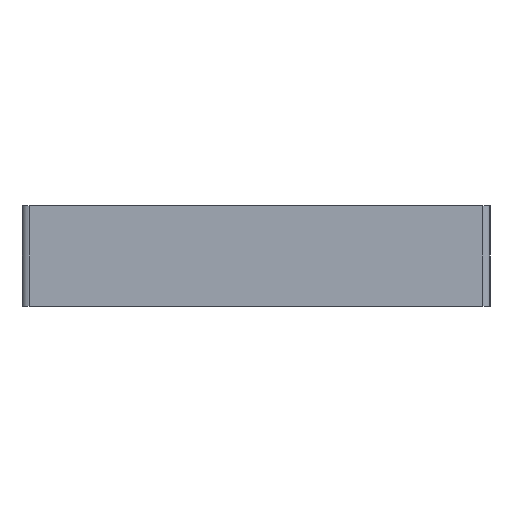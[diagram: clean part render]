
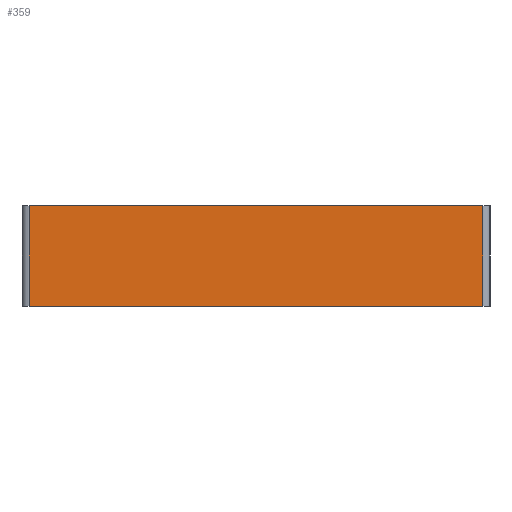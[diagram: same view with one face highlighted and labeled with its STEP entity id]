
A CAD part, left-side view. The second image highlights one B-rep face of the part: STEP entity #359.
In plain terms, the highlighted planar face has unit normal (-1, 0, 0).
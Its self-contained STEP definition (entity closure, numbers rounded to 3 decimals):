
#359=ADVANCED_FACE('',(#1378),#1380,.T.);
#1378=FACE_BOUND('',#1379,.T.);
#1379=EDGE_LOOP('',(#2344,#2345,#2346,#2347));
#1380=PLANE('',#1381);
#1381=AXIS2_PLACEMENT_3D('',#1382,#1383,#1384);
#1382=CARTESIAN_POINT('',(-530.,31.5,0.));
#1383=DIRECTION('',(-1.,0.,0.));
#1384=DIRECTION('',(0.,-1.,0.));
#2344=ORIENTED_EDGE('',*,*,#2719,.T.);
#2345=ORIENTED_EDGE('',*,*,#2706,.T.);
#2346=ORIENTED_EDGE('',*,*,#2634,.F.);
#2347=ORIENTED_EDGE('',*,*,#2718,.F.);
#2634=EDGE_CURVE('',#2874,#2861,#2876,.T.);
#2706=EDGE_CURVE('',#2991,#2861,#2995,.T.);
#2718=EDGE_CURVE('',#3011,#2874,#3013,.T.);
#2719=EDGE_CURVE('',#3011,#2991,#3014,.T.);
#2861=VERTEX_POINT('',#3289);
#2874=VERTEX_POINT('',#3317);
#2876=LINE('',#3322,#3323);
#2991=VERTEX_POINT('',#3606);
#2995=LINE('',#3615,#3616);
#3011=VERTEX_POINT('',#3655);
#3013=LINE('',#3660,#3661);
#3014=LINE('',#3663,#3664);
#3289=CARTESIAN_POINT('',(-530.,-31.5,14.));
#3317=CARTESIAN_POINT('',(-530.,31.5,14.));
#3322=CARTESIAN_POINT('',(-530.,31.5,14.));
#3323=VECTOR('',#3324,1.);
#3324=DIRECTION('',(0.,-1.,0.));
#3606=CARTESIAN_POINT('',(-530.,-31.5,0.));
#3615=CARTESIAN_POINT('',(-530.,-31.5,0.));
#3616=VECTOR('',#3617,1.);
#3617=DIRECTION('',(0.,0.,1.));
#3655=CARTESIAN_POINT('',(-530.,31.5,0.));
#3660=CARTESIAN_POINT('',(-530.,31.5,0.));
#3661=VECTOR('',#3662,1.);
#3662=DIRECTION('',(0.,0.,1.));
#3663=CARTESIAN_POINT('',(-530.,31.5,0.));
#3664=VECTOR('',#3665,1.);
#3665=DIRECTION('',(0.,-1.,0.));
